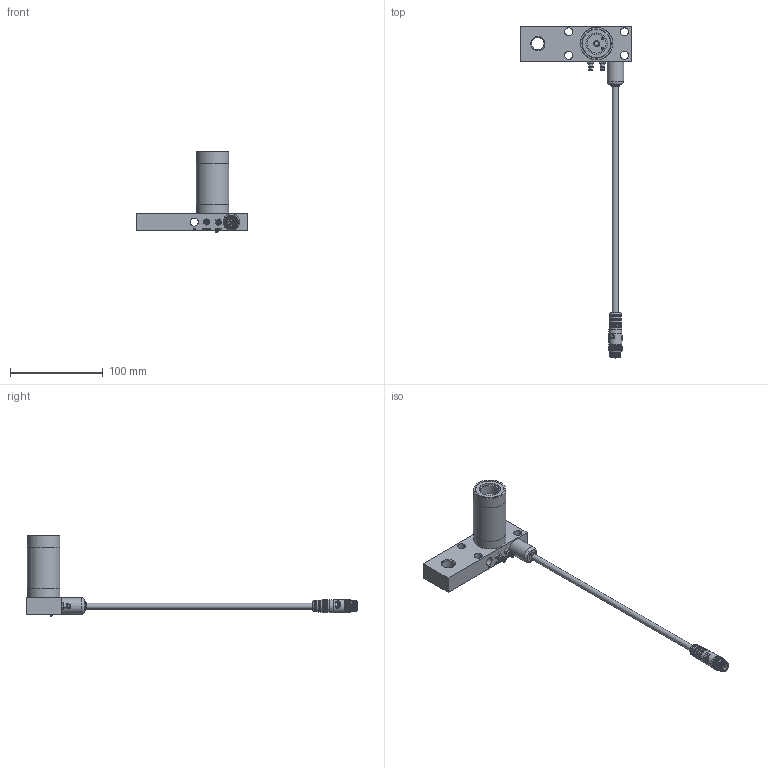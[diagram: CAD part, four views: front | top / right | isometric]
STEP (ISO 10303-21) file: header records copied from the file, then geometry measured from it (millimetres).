
FILE_DESCRIPTION(/* description */ ('ASSY,BODY,VF,IA,SXHR3,NHP_0002708333'),/* implementation_level */ '2;1');
FILE_NAME(/* name */ 'X:\ASSY,BODY,VF,IA,SXHR3,NHP_0002708333.stp',/* time_stamp */ '2021-07-07T13:08:15-04:00',/* author */ ('Simon.Britton'),/* organization */ (''),/* preprocessor_version */ 'ST-DEVELOPER v17',/* originating_system */ 'Autodesk Inventor 2019',/* authorisation */ '');
FILE_SCHEMA (('AUTOMOTIVE_DESIGN { 1 0 10303 214 3 1 1 }'));
Length unit declared in the file: millimetre
Products named in the file (1): ASSY,BODY,VF,IA,SXHR3,NHP
Bounding box: 120.65 x 358.79 x 87.37 mm (x, y, z)
Volume: 130858 mm3; surface area: 67625.6 mm2
Topology: 1 solids, 72 shells, 4051 faces, 9591 edges, 5768 vertices
Faces by surface type: bspline 2515, plane 754, cylinder 685, cone 61, torus 23, sphere 13
Full cylindrical faces by diameter (mm): 1 x5, 1.05 x5, 1.25 x10, 1.35 x5, 1.6 x10, 1.8 x5, 1.85 x5, 2 x1, 2.381 x4, 2.464 x1, 2.7 x1, 2.997 x6, 3 x1, 3.2 x1, 3.81 x2, 3.962 x6, 4.216 x4, 4.366 x1, 4.496 x6, 4.763 x3, 4.8 x3, 5.7 x1, 6.35 x3, 6.4 x1, 7 x1, 8.731 x4, 8.738 x4, 9.4 x1, 9.7 x2, 10.6 x2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
Entity records: 258663 total; most frequent: CARTESIAN_POINT 171769, ORIENTED_EDGE 19140, DIRECTION 13902, EDGE_CURVE 9570, AXIS2_PLACEMENT_3D 5876, VERTEX_POINT 5768, CIRCLE 4269, EDGE_LOOP 4245
